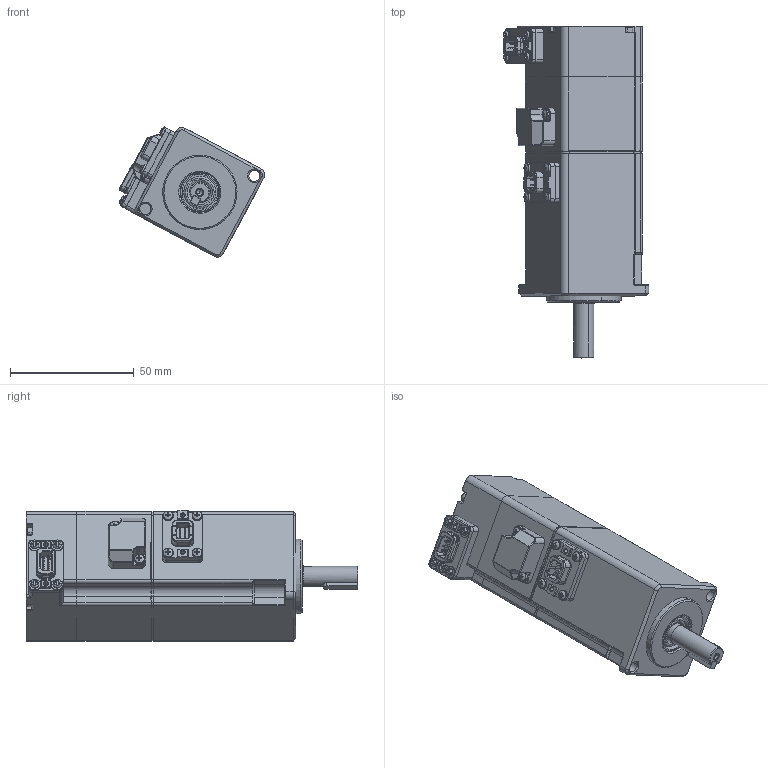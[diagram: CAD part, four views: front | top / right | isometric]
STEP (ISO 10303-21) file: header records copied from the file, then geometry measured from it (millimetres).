
FILE_DESCRIPTION (( 'STEP AP214' ), '1' );
FILE_NAME ('V7E-L04A-R1030-D2.STEP', '2021-08-05T07:51:41', ( '' ), ( '' ), 'SwSTEP 2.0', 'SolidWorks 2014', '' );
FILE_SCHEMA (( 'AUTOMOTIVE_DESIGN' ));
Length unit declared in the file: millimetre
Products named in the file (22): 囀鞠褒 ISO 4762 M2.5 x 8201611; SC轴-配23位分体-光编_配23位分体编码器; 囀鞠褒 ISO 4762 M3 x 25; V7E-L04A-R1030-D2; 囀鞠褒 _ISO 4762 M3 x 30; SC40陔綴傷裔-橾沺郋-201127; SC前轴承 619-9 GB 276-94201611; 隅赽郪璃-橾沺郋32mm201611; SC蚐猾 D00B999YF3-TC 9-16-4201611; 囀鞠褒 ISO 4762 M2 x 22201611; SC綴粣創  607 GB 276-94201611; SC普通型 平键   C 3x3x19.5201611; SC40陔晤鎢ん欶躇猾菜201611; SC傷裔砎蝶菜; 坋趼苤攫芛ISO 7045 - M2 x 5; SC40陔晤鎢ん瑤脣釱sc-mc7p-a6-zhichuxianchazuo201611; SC40新机壳-整体式-配老铁芯201611; 40#价陬裔躇猾菜; 40#价陬堤盄揤盄裔; 坋趼苤攫芛ISO 7045 - M2 x 5201611; SC40陔晤鎢ん欶201611; SC-MC6P-AB2G-04-XIAO6-陔201611
Assembly tree (31 placements, depth 3):
  V7E-L04A-R1030-D2
    隅赽郪璃-橾沺郋32mm201611
      SC40新机壳-整体式-配老铁芯201611
      SC-MC6P-AB2G-04-XIAO6-陔201611
    SC40陔綴傷裔-橾沺郋-201127
    SC傷裔砎蝶菜
    40#价陬堤盄揤盄裔
    40#价陬裔躇猾菜
    SC40陔晤鎢ん欶201611
    SC40陔晤鎢ん欶躇猾菜201611
    SC綴粣創  607 GB 276-94201611
    SC蚐猾 D00B999YF3-TC 9-16-4201611
    SC普通型 平键   C 3x3x19.5201611
    SC前轴承 619-9 GB 276-94201611
    SC40陔晤鎢ん瑤脣釱sc-mc7p-a6-zhichuxianchazuo201611
    囀鞠褒 ISO 4762 M2 x 22201611  x4
    囀鞠褒 ISO 4762 M2.5 x 8201611  x2
    坋趼苤攫芛ISO 7045 - M2 x 5201611  x4
    坋趼苤攫芛ISO 7045 - M2 x 5  x2
    囀鞠褒 _ISO 4762 M3 x 30
    囀鞠褒 ISO 4762 M3 x 25  x3
    SC轴-配23位分体-光编_配23位分体编码器
Bounding box: 58.69 x 133.85 x 52.64 mm (x, y, z)
Volume: 76314.1 mm3; surface area: 60335.6 mm2
Topology: 39 solids, 39 shells, 3613 faces, 9157 edges, 5608 vertices
Faces by surface type: plane 1649, cylinder 1106, bspline 460, cone 247, torus 127, sphere 24
Entity records: 120183 total; most frequent: CARTESIAN_POINT 38599, ORIENTED_EDGE 16650, DIRECTION 15542, EDGE_CURVE 8325, AXIS2_PLACEMENT_3D 5409, VERTEX_POINT 5178, LINE 4724, VECTOR 4724
